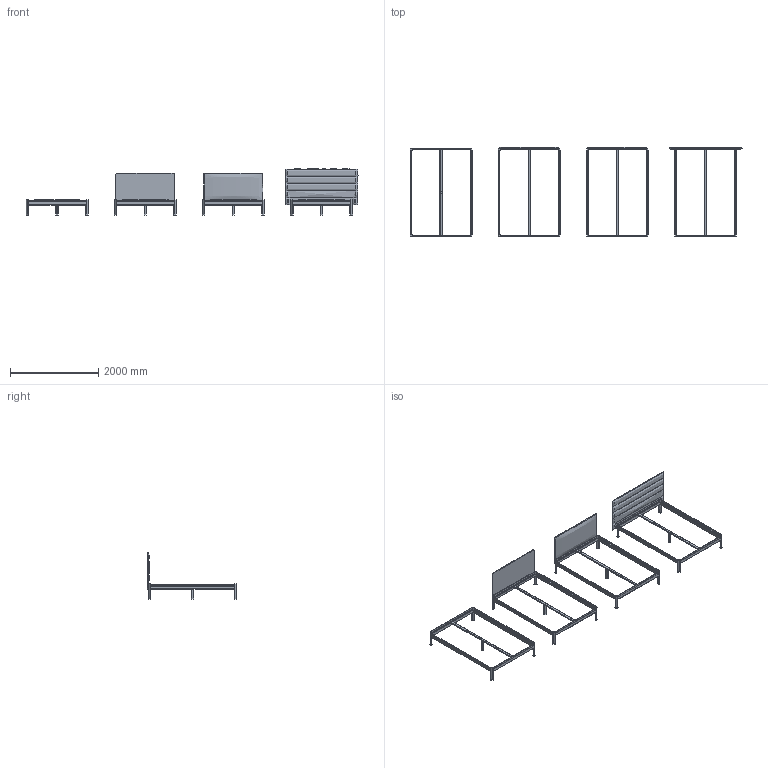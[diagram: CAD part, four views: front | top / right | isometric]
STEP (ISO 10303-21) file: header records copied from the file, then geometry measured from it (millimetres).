
FILE_DESCRIPTION(/* description */ (''),/* implementation_level */ '2;1');
FILE_NAME(/* name */ 'Heia_140x200',/* time_stamp */ '2025-10-15T11:13:51+02:00',/* author */ (''),/* organization */ (''),/* preprocessor_version */ 'ST-DEVELOPER v16.5',/* originating_system */ 'Rhino 7.38',/* authorisation */ '');
FILE_SCHEMA (('CONFIG_CONTROL_DESIGN'));
Length unit declared in the file: millimetre
Products named in the file (1): Document
Bounding box: 7532.91 x 2033.49 x 1051.22 mm (x, y, z)
Volume: 143033402 mm3; surface area: 18454715.4 mm2
Topology: 62 solids, 63 shells, 1706 faces, 4160 edges, 2566 vertices
Faces by surface type: plane 712, cylinder 668, bspline 326
Entity records: 58223 total; most frequent: CARTESIAN_POINT 31763, ORIENTED_EDGE 8294, EDGE_CURVE 4152, VERTEX_POINT 2566, B_SPLINE_CURVE_WITH_KNOTS 1837, EDGE_LOOP 1746, ADVANCED_FACE 1706, FACE_OUTER_BOUND 1706
